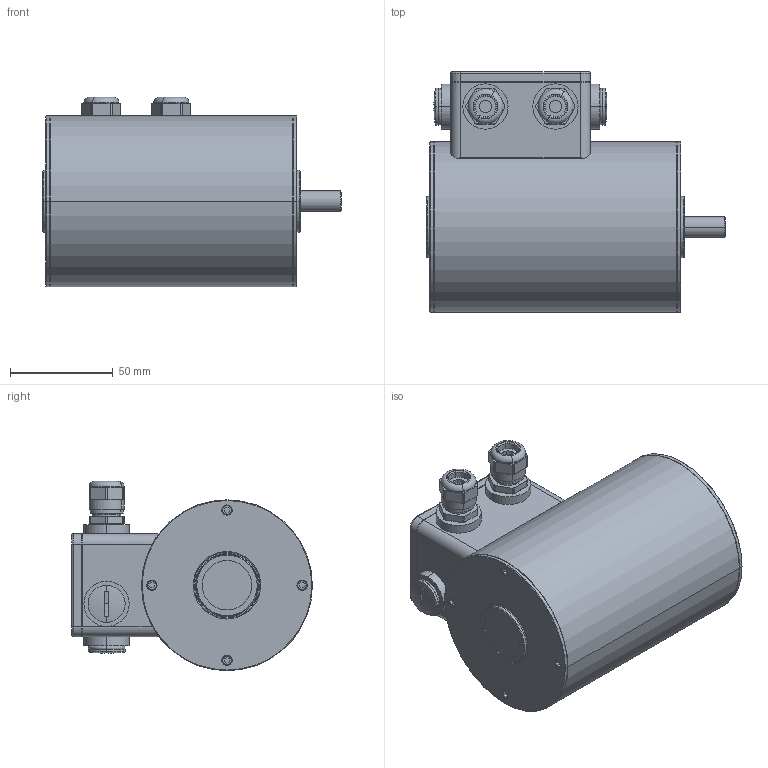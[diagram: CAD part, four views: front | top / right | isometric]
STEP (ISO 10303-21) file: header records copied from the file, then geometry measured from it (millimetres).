
FILE_DESCRIPTION (( 'STEP AP214' ), '1' );
FILE_NAME ('MQC847_K4M.STEP', '2016-04-15T10:23:12', ( 'admin' ), ( '' ), 'SwSTEP 2.0', 'SolidWorks 2015', '' );
FILE_SCHEMA (( 'AUTOMOTIVE_DESIGN' ));
Length unit declared in the file: millimetre
Products named in the file (5): 937201981; 937702020; K4M_BG_8; MQC847 vereinfacht; MQC847_K4M
Assembly tree (7 placements, depth 2):
  MQC847_K4M
    MQC847 vereinfacht
    K4M_BG_8
    937702020  x2
    937201981  x3
Bounding box: 145 x 117 x 92 mm (x, y, z)
Volume: 798966.2 mm3; surface area: 73097 mm2
Topology: 7 solids, 7 shells, 524 faces, 1163 edges, 713 vertices
Faces by surface type: plane 213, cylinder 181, cone 86, torus 40, sphere 4
Entity records: 12151 total; most frequent: DIRECTION 2081, CARTESIAN_POINT 2057, ORIENTED_EDGE 1758, EDGE_CURVE 879, AXIS2_PLACEMENT_3D 813, VERTEX_POINT 541, LINE 455, VECTOR 455
